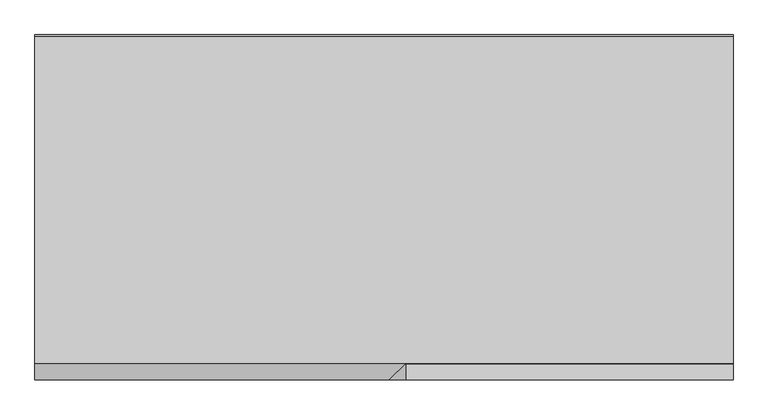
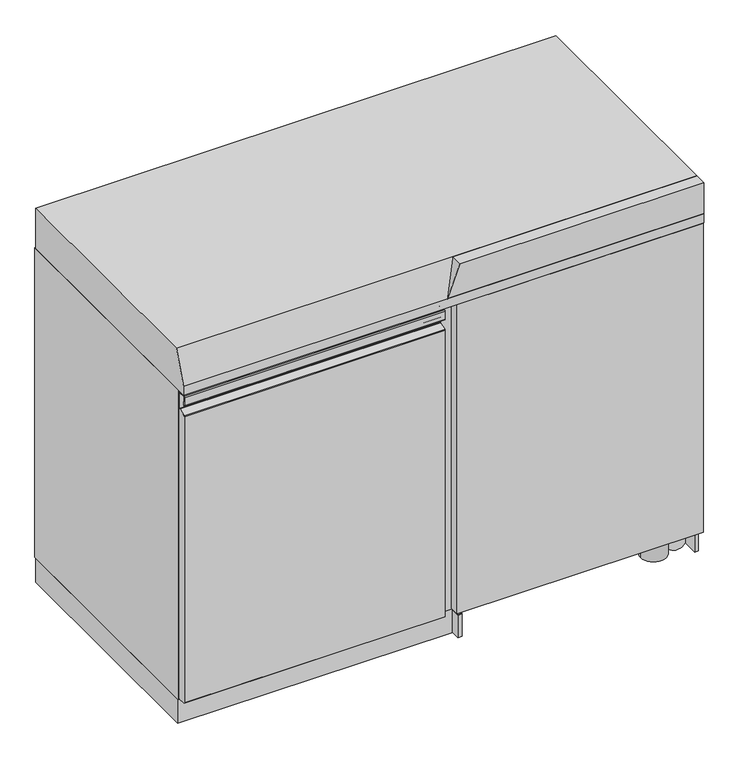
"""IFC4 building model written with IfcOpenShell, lengths in millimetres: proxy geometry, 12762880_D_OSD1290WBL : 331B9DSW_D_12762880_OSD1290WBL."""

from ifc_helpers import new_model, si_unit, point, frame, frame_2d, origin, origin_with_axes, place, context, project, spatial, polyline, circle_curve, trimmed, segment, composite_curve, outline, extrude, faceted_brep, source, transform, mapped, element, save


def specialty_equipment_c826cc0a(model_context):
    return source(origin(), model_context, "Body", "SolidModel", [
        faceted_brep([(-102.1000061, 105.247001, 565.1258688), (-557.1000061, 105.247001, 565.1258688), (-557.1000061, 105.247001, 493.2999878), (-102.1000061, 105.247001, 493.2999878), (-102.1000061, 520.247001, 565.1258688), (-102.1000061, 520.247001, 493.2999878), (-557.1000061, 520.247001, 493.2999878), (-557.1000061, 520.247001, 565.1258688), (-104.6000061, 517.747001, 565.1258688), (-104.6000061, 107.747001, 565.1258688), (-554.6000061, 107.747001, 565.1258688), (-554.6000061, 517.747001, 565.1258688), (-104.6000061, 107.747001, 494.7999878), (-104.6000061, 517.747001, 494.7999878), (-554.6000061, 517.747001, 494.7999878), (-554.6000061, 107.747001, 494.7999878)], [[[0, 1, 2, 3]], [[4, 5, 6, 7]], [[1, 0, 4, 7], [8, 9, 10, 11]], [[2, 1, 7, 6]], [[3, 2, 6, 5]], [[0, 3, 5, 4]], [[12, 13, 14, 15]], [[13, 12, 9, 8]], [[14, 13, 8, 11]], [[15, 14, 11, 10]], [[12, 15, 10, 9]]]),
        faceted_brep([(-102.1000061, 105.247001, 280.1258688), (-557.1000061, 105.247001, 280.1258688), (-557.1000061, 105.247001, 208.2999878), (-102.1000061, 105.247001, 208.2999878), (-102.1000061, 520.247001, 280.1258688), (-102.1000061, 520.247001, 208.2999878), (-557.1000061, 520.247001, 208.2999878), (-557.1000061, 520.247001, 280.1258688), (-105.0, 517.747001, 280.1258688), (-105.0, 107.747001, 280.1258688), (-555.0, 107.747001, 280.1258688), (-555.0, 517.747001, 280.1258688), (-105.0, 107.747001, 209.7999878), (-105.0, 517.747001, 209.7999878), (-555.0, 517.747001, 209.7999878), (-555.0, 107.747001, 209.7999878)], [[[0, 1, 2, 3]], [[4, 5, 6, 7]], [[1, 0, 4, 7], [8, 9, 10, 11]], [[2, 1, 7, 6]], [[3, 2, 6, 5]], [[0, 3, 5, 4]], [[12, 13, 14, 15]], [[13, 12, 9, 8]], [[14, 13, 8, 11]], [[15, 14, 11, 10]], [[12, 15, 10, 9]]]),
        faceted_brep([(-41.1000061, 153.0470041, 565.1258688), (-41.1000061, 153.0470041, 493.2999878), (413.8999939, 153.0470041, 493.2999878), (413.8999939, 153.0470041, 565.1258688), (-41.1000061, 567.5835075, 565.1258688), (413.8999939, 567.5835075, 565.1258688), (413.8999939, 567.5835075, 493.2999878), (-41.1000061, 567.5835075, 493.2999878), (-38.6000061, 155.5470041, 565.1258688), (-38.6000061, 565.0835075, 565.1258688), (411.3999939, 565.0835075, 565.1258688), (411.3999939, 155.5470041, 565.1258688), (-38.6000061, 155.5470041, 494.7999878), (411.3999939, 155.5470041, 494.7999878), (411.3999939, 565.0835075, 494.7999878), (-38.6000061, 565.0835075, 494.7999878)], [[[0, 1, 2, 3]], [[4, 5, 6, 7]], [[0, 3, 5, 4], [8, 9, 10, 11]], [[3, 2, 6, 5]], [[2, 1, 7, 6]], [[1, 0, 4, 7]], [[12, 13, 14, 15]], [[12, 15, 9, 8]], [[15, 14, 10, 9]], [[14, 13, 11, 10]], [[13, 12, 8, 11]]]),
        faceted_brep([(-41.1000061, 153.0470041, 280.1258688), (-41.1000061, 153.0470041, 208.2999878), (413.8999939, 153.0470041, 208.2999878), (413.8999939, 153.0470041, 280.1258688), (-41.1000061, 567.5835075, 280.1258688), (413.8999939, 567.5835075, 280.1258688), (413.8999939, 567.5835075, 208.2999878), (-41.1000061, 567.5835075, 208.2999878), (-38.6000061, 155.5470041, 280.1258688), (-38.6000061, 565.0835075, 280.1258688), (411.3999939, 565.0835075, 280.1258688), (411.3999939, 155.5470041, 280.1258688), (-38.6000061, 155.5470041, 209.7999878), (411.3999939, 155.5470041, 209.7999878), (411.3999939, 565.0835075, 209.7999878), (-38.6000061, 565.0835075, 209.7999878)], [[[0, 1, 2, 3]], [[4, 5, 6, 7]], [[0, 3, 5, 4], [8, 9, 10, 11]], [[3, 2, 6, 5]], [[2, 1, 7, 6]], [[1, 0, 4, 7]], [[12, 13, 14, 15]], [[12, 15, 9, 8]], [[15, 14, 10, 9]], [[14, 13, 11, 10]], [[13, 12, 8, 11]]]),
        extrude(outline(polyline([(90.0, 674.3500061), (587.997001, 674.3500061), (587.997001, 101.0), (90.0, 101.0), (90.0, 674.3500061)]), holes=[polyline([(175.2970041, 591.9500122), (175.2970041, 248.2999878), (502.997001, 248.2999878), (502.997001, 591.9500122), (175.2970041, 591.9500122)])]), frame((-102.1000061, 0.0, 0.0), z_axis=(1.0, 0.0, 0.0), x_axis=(0.0, 1.0, 0.0)), (0.0, 0.0, 1.0), 61.0),
        extrude(outline(composite_curve([segment(polyline([(2.2, 823.5), (2.2, 814.5999985)]), True, "CONTINUOUS"), segment(trimmed(circle_curve(frame_2d((1.1, 814.5999985)), 1.1), [point((2.2, 814.5999985))], [point((0.0, 814.5999985))], False, "CARTESIAN"), True, "CONTINUOUS"), segment(polyline([(0.0, 814.5999985), (0.0, 835.0000001)]), True, "CONTINUOUS"), segment(trimmed(circle_curve(frame_2d((1.9999999, 835.0000001)), 1.9999999), [point((0.0, 835.0000001))], [point((1.9999999, 837.0))], False, "CARTESIAN"), True, "CONTINUOUS"), segment(polyline([(1.9999999, 837.0), (21.0, 837.0)]), True, "CONTINUOUS"), segment(trimmed(circle_curve(frame_2d((21.0, 835.0)), 2.0), [point((21.0, 837.0))], [point((23.0, 835.0))], False, "CARTESIAN"), True, "CONTINUOUS"), segment(polyline([(23.0, 835.0), (23.0, 78.9000238), (19.0000004, 72.5), (1.9999999, 72.5), (0.0, 74.4999999), (0.0, 787.6206148)]), True, "CONTINUOUS"), segment(trimmed(circle_curve(frame_2d((2.0, 787.6206148)), 2.0), [point((0.0, 787.6206148))], [point((1.3159597, 789.5))], False, "CARTESIAN"), True, "CONTINUOUS"), segment(polyline([(1.3159597, 789.5), (18.3147239, 795.6870442)]), True, "CONTINUOUS"), segment(trimmed(circle_curve(frame_2d((18.3147239, 796.3723207)), 0.6852765), [point((18.3147239, 795.6870442))], [point((19.0000004, 796.3723207))], True, "CARTESIAN"), True, "CONTINUOUS"), segment(polyline([(19.0000004, 796.3723207), (19.0000004, 833.5), (20.0000004, 833.5), (20.0000004, 835.0)]), True, "CONTINUOUS"), segment(trimmed(circle_curve(frame_2d((19.0000004, 835.0)), 1.0), [point((20.0000004, 835.0))], [point((19.0000004, 836.0))], True, "CARTESIAN"), True, "CONTINUOUS"), segment(polyline([(19.0000004, 836.0), (1.9999999, 836.0)]), True, "CONTINUOUS"), segment(trimmed(circle_curve(frame_2d((1.9999999, 835.0000001)), 0.9999999), [point((1.9999999, 836.0))], [point((1.0, 835.0000001))], True, "CARTESIAN"), True, "CONTINUOUS"), segment(polyline([(1.0, 835.0000001), (1.0, 823.5), (2.2, 823.5)]), True, "CONTINUOUS")], self_intersect=False)), frame((-611.5, 0.0, 0.0), z_axis=(1.0, 0.0, 0.0), x_axis=(0.0, 1.0, 0.0)), (0.0, 0.0, 1.0), 614.5740051),
        extrude(outline(polyline([(612.5, 0.0), (31.5, 0.0), (31.5, 23.0), (612.5, 23.0), (612.5, 0.0)])), frame((0.0, 0.0, 71.0), z_axis=(0.0, 0.0, 1.0), x_axis=(1.0, 0.0, 0.0)), (0.0, 0.0, 1.0), 770.0),
        extrude(outline(polyline([(28.370519, 941.5), (603.9999916, 941.5), (603.9999916, 841.5), (0.0, 841.5), (0.0, 863.5526396), (28.370519, 941.5)])), frame((-613.5, 0.0, 0.0), z_axis=(1.0, 0.0, 0.0), x_axis=(0.0, 1.0, 0.0)), (0.0, 0.0, 1.0), 1227.0),
        faceted_brep([(613.5, 0.0, 941.5), (613.5, 0.0, 863.5526396), (613.5, 28.370519, 941.5), (37.8146418, 0.0, 941.5), (8.3520907, 0.0, 863.5526396), (39.0, 0.0, 863.5526396), (39.0, 28.370519, 941.5), (37.8146418, 28.370519, 941.5), (39.0, 28.370519, 863.5526396), (8.3520907, 28.370519, 863.5526396)], [[[0, 1, 2]], [[1, 0, 3, 4, 5]], [[2, 1, 5, 6]], [[3, 0, 2, 6, 7]], [[7, 6, 8, 9]], [[4, 3, 7, 9]], [[5, 4, 9, 8]], [[8, 6, 5]]]),
        extrude(outline(composite_curve([segment(trimmed(circle_curve(frame_2d((537.0, 73.5499878)), 30.0268488), [point((506.9731512, 73.5499878))], [point((567.0268488, 73.5499878))], False, "CARTESIAN"), True, "CONTINUOUS"), segment(trimmed(circle_curve(frame_2d((537.0, 73.5499878)), 30.0268488), [point((567.0268488, 73.5499878))], [point((506.9731512, 73.5499878))], False, "CARTESIAN"), True, "CONTINUOUS")], self_intersect=False)), origin_with_axes(), (0.0, 0.0, 1.0), 69.5),
        extrude(outline(composite_curve([segment(trimmed(circle_curve(frame_2d((-537.0, 73.5499878)), 30.0268488), [point((-567.0268488, 73.5499878))], [point((-506.9731512, 73.5499878))], False, "CARTESIAN"), True, "CONTINUOUS"), segment(trimmed(circle_curve(frame_2d((-537.0, 73.5499878)), 30.0268488), [point((-506.9731512, 73.5499878))], [point((-567.0268488, 73.5499878))], False, "CARTESIAN"), True, "CONTINUOUS")], self_intersect=False)), origin_with_axes(), (0.0, 0.0, 1.0), 69.5),
        extrude(outline(composite_curve([segment(trimmed(circle_curve(frame_2d((537.0, 552.5864926)), 30.0), [point((507.0, 552.5864926))], [point((567.0, 552.5864926))], False, "CARTESIAN"), True, "CONTINUOUS"), segment(trimmed(circle_curve(frame_2d((537.0, 552.5864926)), 30.0), [point((567.0, 552.5864926))], [point((507.0, 552.5864926))], False, "CARTESIAN"), True, "CONTINUOUS")], self_intersect=False)), origin_with_axes(), (0.0, 0.0, 1.0), 69.5),
        extrude(outline(composite_curve([segment(trimmed(circle_curve(frame_2d((-537.0, 552.5864926)), 30.0), [point((-567.0, 552.5864926))], [point((-507.0, 552.5864926))], False, "CARTESIAN"), True, "CONTINUOUS"), segment(trimmed(circle_curve(frame_2d((-537.0, 552.5864926)), 30.0), [point((-507.0, 552.5864926))], [point((-567.0, 552.5864926))], False, "CARTESIAN"), True, "CONTINUOUS")], self_intersect=False)), origin_with_axes(), (0.0, 0.0, 1.0), 69.5),
        extrude(outline(composite_curve([segment(trimmed(circle_curve(frame_2d((25.0028687, -585.0)), 25.0), [point((25.0028687, -610.0))], [point((25.0028687, -560.0))], False, "CARTESIAN"), True, "CONTINUOUS"), segment(trimmed(circle_curve(frame_2d((25.0028687, -585.0)), 25.0), [point((25.0028687, -560.0))], [point((25.0028687, -610.0))], False, "CARTESIAN"), True, "CONTINUOUS")], self_intersect=False)), frame((0.0, 61.0499878, 0.0), z_axis=(0.0, 1.0, 0.0), x_axis=(0.0, 0.0, 1.0)), (0.0, 0.0, 1.0), 25.0),
        extrude(outline(composite_curve([segment(trimmed(circle_curve(frame_2d((25.0028687, -585.0)), 25.0), [point((25.0028687, -610.0))], [point((25.0028687, -560.0))], False, "CARTESIAN"), True, "CONTINUOUS"), segment(trimmed(circle_curve(frame_2d((25.0028687, -585.0)), 25.0), [point((25.0028687, -560.0))], [point((25.0028687, -610.0))], False, "CARTESIAN"), True, "CONTINUOUS")], self_intersect=False)), frame((0.0, 540.0864926, 0.0), z_axis=(0.0, 1.0, 0.0), x_axis=(0.0, 0.0, 1.0)), (0.0, 0.0, 1.0), 25.0),
        extrude(outline(composite_curve([segment(trimmed(circle_curve(frame_2d((25.0028687, 585.0)), 25.0), [point((25.0028687, 610.0))], [point((25.0028687, 560.0))], False, "CARTESIAN"), True, "CONTINUOUS"), segment(trimmed(circle_curve(frame_2d((25.0028687, 585.0)), 25.0), [point((25.0028687, 560.0))], [point((25.0028687, 610.0))], False, "CARTESIAN"), True, "CONTINUOUS")], self_intersect=False)), frame((0.0, 61.0499878, 0.0), z_axis=(0.0, 1.0, 0.0), x_axis=(0.0, 0.0, 1.0)), (0.0, 0.0, 1.0), 25.0),
        extrude(outline(composite_curve([segment(trimmed(circle_curve(frame_2d((25.0029118, 585.0464698)), 25.0), [point((25.0029118, 610.0464698))], [point((25.0029118, 560.0464698))], False, "CARTESIAN"), True, "CONTINUOUS"), segment(trimmed(circle_curve(frame_2d((25.0029118, 585.0464698)), 25.0), [point((25.0029118, 560.0464698))], [point((25.0029118, 610.0464698))], False, "CARTESIAN"), True, "CONTINUOUS")], self_intersect=False)), frame((0.0, 540.0499878, 0.0), z_axis=(0.0, 1.0, 0.0), x_axis=(0.0, 0.0, 1.0)), (0.0, 0.0, 1.0), 25.0),
        faceted_brep([(613.5, 607.0365048, 841.5), (613.5, 607.0365048, 69.5), (-613.5, 607.0365048, 69.5), (-613.5, 607.0365048, 841.5), (-613.5, 23.0, 841.5), (-613.5, 23.0, 69.5), (613.5, 23.0, 69.5), (613.5, 23.0, 841.5), (-7.3767007, 23.0, 841.5), (-7.3767007, 23.0, 100.5), (-587.5, 23.0, 100.5), (-587.5, 23.0, 841.5), (-587.5, 602.5365048, 841.5), (594.9530473, 602.5365048, 841.5), (594.9530473, 51.0927658, 841.5), (-7.3767007, 51.0927658, 841.5), (-7.3767007, 51.0927658, 100.5), (594.9530473, 51.0927658, 100.5), (594.9530473, 602.5365048, 100.5), (-587.5, 602.5365048, 100.5)], [[[0, 1, 2, 3]], [[4, 5, 6, 7, 8, 9, 10, 11]], [[0, 3, 4, 11, 12, 13, 14, 15, 8, 7]], [[3, 2, 5, 4]], [[2, 1, 6, 5]], [[1, 0, 7, 6]], [[9, 16, 17, 18, 19, 10]], [[16, 9, 8, 15]], [[17, 16, 15, 14]], [[18, 17, 14, 13]], [[19, 18, 13, 12]], [[10, 19, 12, 11]]]),
        extrude(outline(polyline([(-16.9259949, 38.0), (-16.9259949, 23.0), (-596.5, 23.0), (-596.5, 38.0), (-16.9259949, 38.0)])), frame((0.0, 0.0, 763.0), z_axis=(0.0, 0.0, 1.0), x_axis=(1.0, 0.0, 0.0)), (0.0, 0.0, 1.0), 78.5),
        extrude(outline(polyline([(613.5, 604.1365048), (613.5, 24.0), (605.5, 24.0), (605.5, 589.1365048), (-605.5, 589.1365048), (-605.5, 39.0), (33.5, 38.7361687), (33.5, 24.0), (-613.5, 24.0), (-613.5, 604.1365048), (613.5, 604.1365048)])), frame((0.0, 0.0, 9.5), z_axis=(0.0, 0.0, 1.0), x_axis=(1.0, 0.0, 0.0)), (0.0, 0.0, 1.0), 60.0),
        extrude(outline(polyline([(34.5, 24.0), (34.5, 1.0), (43.5, 1.0), (43.5, 0.0), (33.5, 0.0), (33.5, 24.0), (34.5, 24.0)])), frame((0.0, 0.0, 11.5), z_axis=(0.0, 0.0, 1.0), x_axis=(1.0, 0.0, 0.0)), (0.0, 0.0, 1.0), 56.0),
    ])


if __name__ == "__main__":
    model = new_model("IFC4")
    model_context = context("Model", 3, world=origin())
    ifc_project = project(units=[si_unit("LENGTHUNIT", "METRE", prefix="MILLI")], contexts=[model_context])
    site = spatial("IfcSite", under=ifc_project)
    building = spatial("IfcBuilding", under=site)
    placement = place(None, origin())
    specialty_equipment_shape = specialty_equipment_c826cc0a(model_context)
    element("IfcBuildingElementProxy", 1, Name="12762880_D_OSD1290WBL : 331B9DSW_D_12762880_OSD1290WBL", ObjectType="12762880_D_OSD1290WBL : 331B9DSW_D_12762880_OSD1290WBL", at=placement, inside=building, context=model_context, shape_type="MappedRepresentation", body=[
        mapped(specialty_equipment_shape, transform((0.0, 0.0, 0.0), x_axis=(1.0, 0.0, 0.0), y_axis=(0.0, 1.0, 0.0), z_axis=(0.0, 0.0, 1.0))),
    ])
    save(model, "model.ifc")
